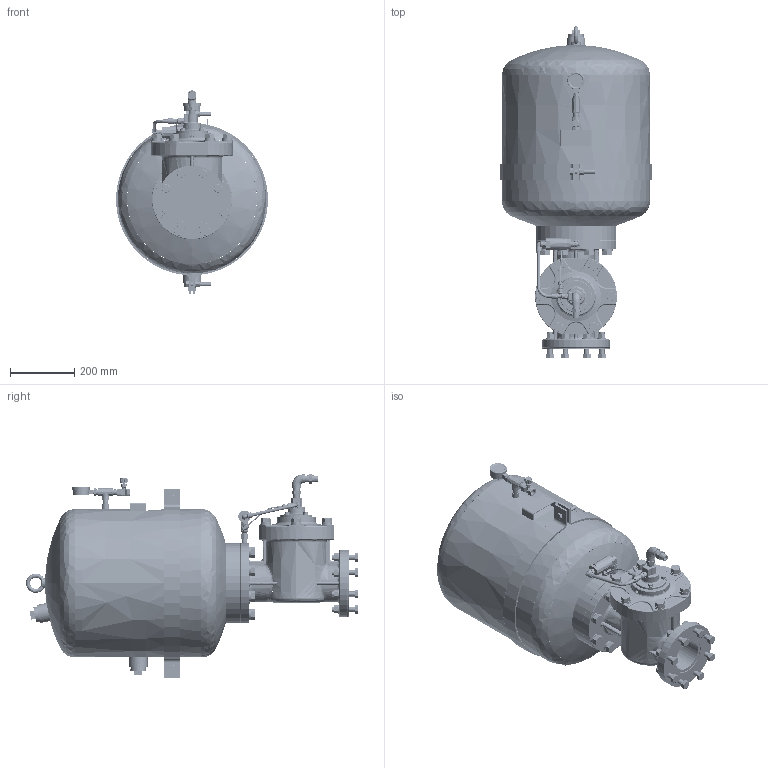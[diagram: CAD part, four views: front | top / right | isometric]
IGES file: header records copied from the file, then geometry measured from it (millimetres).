
Start section: SolidWorks IGES file using analytic representation for surfaces
Global section: file name: V:\WORK\08133\HP Defeature\blaster\EDB4-80A\IGS_STEP僼傽僀儖\EDB4-80A.IGS; native system: SolidWorks 2022; preprocessor: SolidWorks 2022; author: n-udagawa; date: 250422.101055; units: millimetre
Bounding box: 473 x 1034.22 x 635 mm (x, y, z)
Surface area: 1679400.9 mm2 (no closed solid volume)
Topology: 0 solids, 0 shells, 2201 faces, 33005 edges, 32970 vertices
Faces by surface type: bspline 1138, revolution 1063
